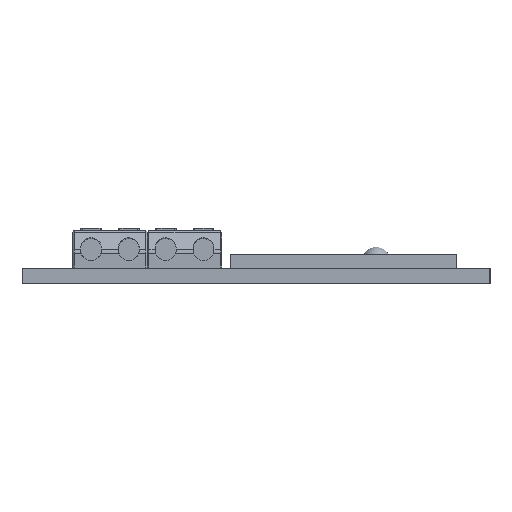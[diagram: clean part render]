
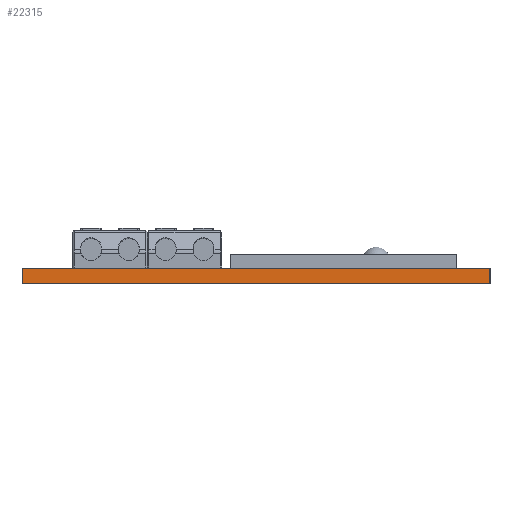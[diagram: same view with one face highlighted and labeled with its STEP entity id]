
A CAD part, left-side view. The second image highlights one B-rep face of the part: STEP entity #22315.
In plain terms, the highlighted planar face has unit normal (-1, 0, 0).
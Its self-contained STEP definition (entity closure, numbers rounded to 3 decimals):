
#852=LINE('',#33756,#3018);
#2311=LINE('',#40284,#4477);
#2312=LINE('',#40287,#4478);
#2313=LINE('',#40288,#4479);
#3018=VECTOR('',#25115,10.);
#4477=VECTOR('',#29044,10.);
#4478=VECTOR('',#29047,10.);
#4479=VECTOR('',#29048,10.);
#6613=FACE_OUTER_BOUND('',#7889,.T.);
#7889=EDGE_LOOP('',(#19718,#19719,#19720,#19721));
#9129=VERTEX_POINT('',#33749);
#9132=VERTEX_POINT('',#33754);
#10418=VERTEX_POINT('',#40282);
#10419=VERTEX_POINT('',#40286);
#11526=EDGE_CURVE('',#9132,#9129,#852,.T.);
#13527=EDGE_CURVE('',#9132,#10418,#2311,.T.);
#13528=EDGE_CURVE('',#10419,#10418,#2312,.T.);
#13529=EDGE_CURVE('',#9129,#10419,#2313,.T.);
#19718=ORIENTED_EDGE('',*,*,#11526,.F.);
#19719=ORIENTED_EDGE('',*,*,#13527,.T.);
#19720=ORIENTED_EDGE('',*,*,#13528,.F.);
#19721=ORIENTED_EDGE('',*,*,#13529,.F.);
#20425=PLANE('',#23857);
#22315=ADVANCED_FACE('',(#6613),#20425,.T.);
#23857=AXIS2_PLACEMENT_3D('',#40285,#29045,#29046);
#25115=DIRECTION('',(0.,-1.,0.));
#29044=DIRECTION('',(0.,0.,-1.));
#29045=DIRECTION('center_axis',(-1.,0.,0.));
#29046=DIRECTION('ref_axis',(0.,1.,0.));
#29047=DIRECTION('',(0.,1.,0.));
#29048=DIRECTION('',(0.,0.,-1.));
#33749=CARTESIAN_POINT('',(0.,0.,0.));
#33754=CARTESIAN_POINT('',(0.,49.5,0.));
#33756=CARTESIAN_POINT('',(0.,49.5,0.));
#40282=CARTESIAN_POINT('',(0.,49.5,-1.6));
#40284=CARTESIAN_POINT('',(0.,49.5,0.));
#40285=CARTESIAN_POINT('Origin',(0.,0.,0.));
#40286=CARTESIAN_POINT('',(0.,0.,-1.6));
#40287=CARTESIAN_POINT('',(0.,49.5,-1.6));
#40288=CARTESIAN_POINT('',(0.,0.,0.));
